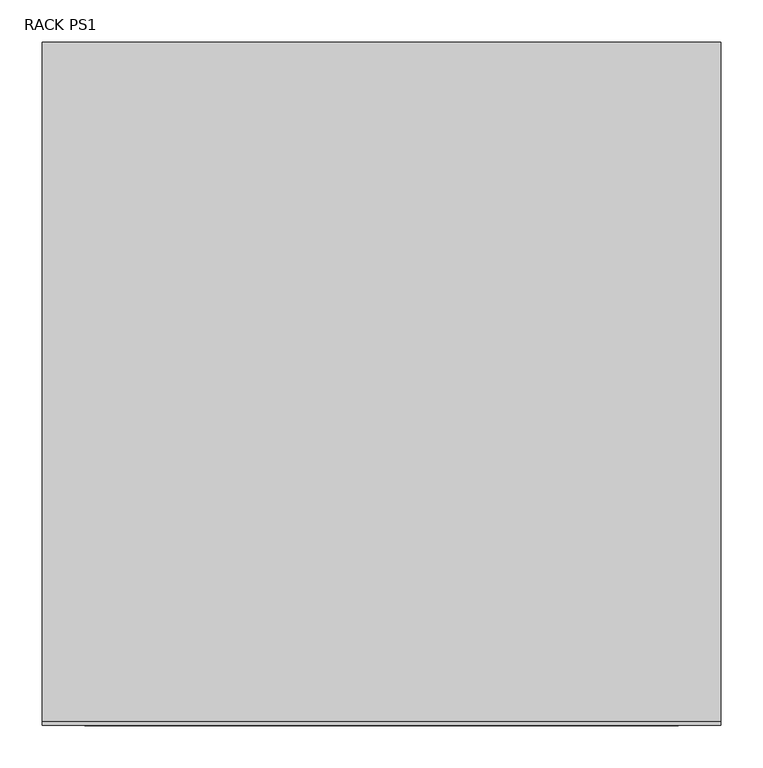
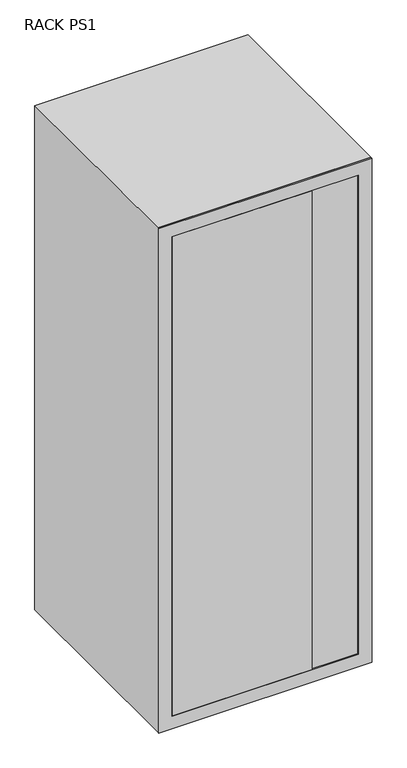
"""IFC4 building model written with IfcOpenShell, lengths in millimetres: proxy geometry, ZYR_08.01.01 RACK (Armari Petit) : RACK PS1."""

from ifc_helpers import new_model, si_unit, frame, origin, place, context, project, spatial, polyline, outline, extrude, source, transform, mapped, element, save


def rack_ps1_b82cc309(model_context):
    return source(origin(), model_context, "Body", "SweptSolid", [
        extrude(outline(polyline([(400.0, -800.0), (-400.0, -800.0), (-400.0, 0.0), (400.0, 0.0), (400.0, -800.0)])), frame((0.0, 0.0, -1000.0), z_axis=(0.0, 0.0, 1.0), x_axis=(1.0, 0.0, 0.0)), (0.0, 0.0, 1.0), 2000.0),
        extrude(outline(polyline([(1000.0, 400.0), (1000.0, -400.0), (-1000.0, -400.0), (-1000.0, 400.0), (1000.0, 400.0)]), holes=[polyline([(-950.0, -350.0), (950.0, -350.0), (950.0, 350.0), (-950.0, 350.0), (-950.0, -350.0)])]), frame((0.0, -805.0, 0.0), z_axis=(0.0, 1.0, 0.0), x_axis=(0.0, 0.0, 1.0)), (0.0, 0.0, 1.0), 5.0),
        extrude(outline(polyline([(175.0, -805.0), (-350.0, -805.0), (-350.0, -800.0), (175.0, -800.0), (175.0, -805.0)])), frame((0.0, 0.0, -950.0), z_axis=(0.0, 0.0, 1.0), x_axis=(1.0, 0.0, 0.0)), (0.0, 0.0, 1.0), 1900.0),
    ])


if __name__ == "__main__":
    model = new_model("IFC4")
    model_context = context("Model", 3, world=origin())
    ifc_project = project(units=[si_unit("LENGTHUNIT", "METRE", prefix="MILLI")], contexts=[model_context])
    site = spatial("IfcSite", under=ifc_project)
    building = spatial("IfcBuilding", under=site)
    placement = place(None, origin())
    rack_ps1_shape = rack_ps1_b82cc309(model_context)
    element("IfcBuildingElementProxy", 1, Name="ZYR_08.01.01 RACK (Armari Petit) : RACK PS1", ObjectType="ZYR_08.01.01 RACK (Armari Petit) : RACK PS1", at=placement, inside=building, context=model_context, shape_type="MappedRepresentation", body=[
        mapped(rack_ps1_shape, transform((0.0, 0.0, 0.0), x_axis=(1.0, 0.0, 0.0), y_axis=(0.0, 1.0, 0.0), z_axis=(0.0, 0.0, 1.0))),
    ])
    save(model, "model.ifc")
